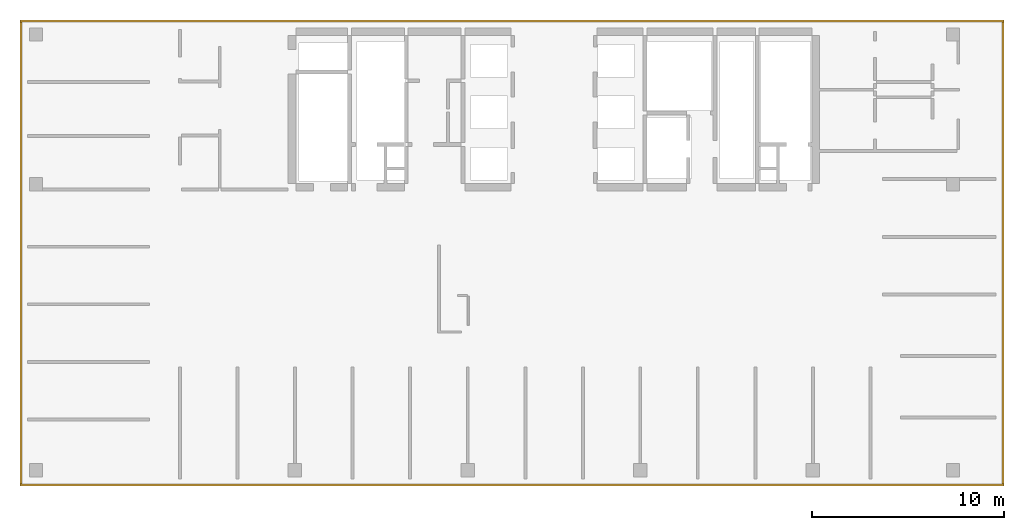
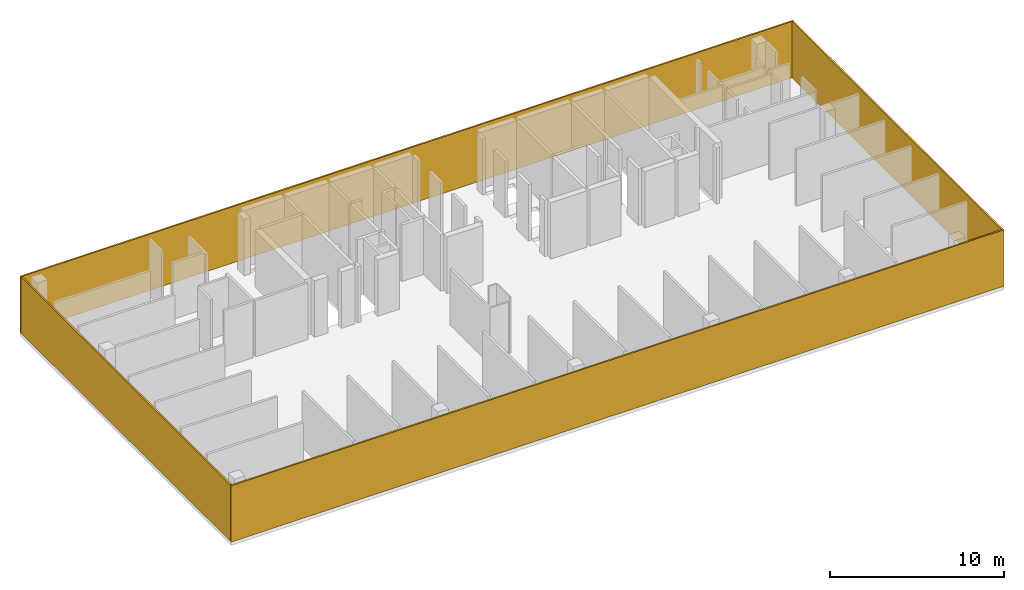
# One storey, part 4 of 4: 4 curtain walls.
"""IFC4 building model written with IfcOpenShell, lengths in millimetres."""

import ifcopenshell
import ifcopenshell.guid

model = None  # the IFC model being written
_history = None  # IfcOwnerHistory: only IFC2X3 demands one
_inside = {}  # id of a spatial element -> (the spatial element, [elements in it])
_under = {}  # id of a project, library or spatial element -> (it, [spatial elements below it])
_declared = {}  # id of a project -> (the project, [libraries it declares])
_typed = {}  # id of a type object -> (the type object, [elements of that type])
_made_of = {}  # id of a material, layer set ... -> (it, [elements and type objects made of it])


def new_model(schema):
    """Start an empty IFC model of exactly this schema.

    Asked for "IFC4X3", IfcOpenShell would pick the latest addendum, in which some entities
    have other attributes; the version numbers below select the first issue.
    IFC2X3 requires an IfcOwnerHistory on every rooted entity: one is made here for all.
    """
    global model, _history
    if schema == "IFC4X3":
        model = ifcopenshell.file(schema_version=(4, 3, 0, 0))
    else:
        model = ifcopenshell.file(schema=schema)
    _inside.clear()
    _under.clear()
    _declared.clear()
    _typed.clear()
    _made_of.clear()
    _history = None
    if model.schema == "IFC2X3":
        org = make("IfcOrganization", Name="unknown")
        user = make(
            "IfcPersonAndOrganization",
            ThePerson=make("IfcPerson", FamilyName="unknown"),
            TheOrganization=org,
        )
        app = make(
            "IfcApplication",
            ApplicationDeveloper=org,
            Version="unknown",
            ApplicationFullName="unknown",
            ApplicationIdentifier="unknown",
        )
        _history = make(
            "IfcOwnerHistory",
            OwningUser=user,
            OwningApplication=app,
            ChangeAction="ADDED",
            CreationDate=0,
        )
    return model


def make(cls, **values):
    """One entity of the class cls with the attributes given. An attribute that is None is left unset."""
    return model.create_entity(
        cls, **{name: value for name, value in values.items() if value is not None}
    )


def rooted(cls, **values):
    """An entity with a GlobalId (a new one), such as an element, a storey or a relation."""
    return make(cls, GlobalId=ifcopenshell.guid.new(), OwnerHistory=_history, **values)


def si_unit(unit_type, name, prefix=None):
    """IfcSIUnit, for example si_unit("LENGTHUNIT", "METRE", prefix="MILLI")."""
    return make("IfcSIUnit", UnitType=unit_type, Prefix=prefix, Name=name)


def assignment(units):
    """IfcUnitAssignment: the units of a project."""
    return None if units is None else make("IfcUnitAssignment", Units=units)


def point(xyz):
    """IfcCartesianPoint."""
    return None if xyz is None else make("IfcCartesianPoint", Coordinates=xyz)


def direction(xyz):
    """IfcDirection."""
    return None if xyz is None else make("IfcDirection", DirectionRatios=xyz)


def frame(location, z_axis=None, x_axis=None):
    """IfcAxis2Placement3D, a coordinate frame: its origin and axes. An axis left out is left unset."""
    return make(
        "IfcAxis2Placement3D",
        Location=point(location),
        Axis=direction(z_axis),
        RefDirection=direction(x_axis),
    )


def origin():
    """The frame at (0, 0, 0) with its axes left unset."""
    return frame((0.0, 0.0, 0.0))


def place(relative_to, where):
    """IfcLocalPlacement: puts the frame where relative to a parent placement (None: the world)."""
    return make(
        "IfcLocalPlacement", PlacementRelTo=relative_to, RelativePlacement=where
    )


def context(
    kind, dimensions, precision=None, world=None, true_north=None, identifier=None
):
    """IfcGeometricRepresentationContext, for example the 3D "Model" context."""
    return make(
        "IfcGeometricRepresentationContext",
        ContextIdentifier=identifier,
        ContextType=kind,
        CoordinateSpaceDimension=dimensions,
        Precision=precision,
        WorldCoordinateSystem=world,
        TrueNorth=true_north,
    )


def project(units=None, contexts=None):
    """IfcProject with its units and contexts."""
    return rooted(
        "IfcProject",
        Name="project",
        RepresentationContexts=contexts,
        UnitsInContext=assignment(units),
    )


def spatial(cls, under=None, at=None, **own):
    """A site, building, storey or space (cls), placed at a placement, below another one or the project."""
    s = rooted(cls, ObjectPlacement=at, **own)
    if under is not None:
        _under.setdefault(under.id(), (under, []))[1].append(s)
    return s


def point_list(points):
    """IfcCartesianPointList2D or 3D."""
    cls = (
        "IfcCartesianPointList2D" if len(points[0]) == 2 else "IfcCartesianPointList3D"
    )
    return make(cls, CoordList=points)


def triangles(points, corners, closed=None, point_numbers=None):
    """IfcTriangulatedFaceSet: each triangle names its three corners, points numbered from 1."""
    return make(
        "IfcTriangulatedFaceSet",
        Coordinates=point_list(points),
        Closed=closed,
        CoordIndex=corners,
        PnIndex=point_numbers,
    )


def shape(context_of_items, identifier, shape_type, items):
    """IfcShapeRepresentation: the items that make up one representation, for example the "Body"."""
    return make(
        "IfcShapeRepresentation",
        ContextOfItems=context_of_items,
        RepresentationIdentifier=identifier,
        RepresentationType=shape_type,
        Items=items,
    )


def made_of(thing, what):
    """Note that an element or type object is made of a material, layer set ...; save() writes the relation."""
    if what is not None:
        _made_of.setdefault(what.id(), (what, []))[1].append(thing)
    return thing


def element(
    cls,
    number,
    at=None,
    inside=None,
    cuts=None,
    type_object=None,
    material=None,
    context=None,
    identifier="Body",
    shape_type=None,
    held_by="IfcProductDefinitionShape",
    body=None,
    shapes=None,
    **own,
):
    """One element of the class cls, such as IfcWall. Its Tag is "e" and its number.

    at: its placement. inside: the storey or other place that contains it. cuts: it is an
    opening in that element (IfcRelVoidsElement). A single representation is given by context,
    identifier, shape_type and body (its items); several are given by shapes. held_by: the class
    of the entity that holds the representations. save() writes the other relations.
    """
    e = rooted(cls, Tag="e%d" % number, ObjectPlacement=at, **own)
    if body is not None:
        shapes = [shape(context, identifier, shape_type, body)]
    if shapes is not None:
        e.Representation = make(held_by, Representations=shapes)
    if inside is not None:
        _inside.setdefault(inside.id(), (inside, []))[1].append(e)
    if cuts is not None:
        rooted(
            "IfcRelVoidsElement", RelatingBuildingElement=cuts, RelatedOpeningElement=e
        )
    if type_object is not None:
        _typed.setdefault(type_object.id(), (type_object, []))[1].append(e)
    return made_of(e, material)


def aggregate(whole, parts):
    """IfcRelAggregates: a whole, such as a stair, and the parts it consists of."""
    return rooted("IfcRelAggregates", RelatingObject=whole, RelatedObjects=parts)


def save(model, path):
    """Write the relations noted so far, then the file.

    IfcRelAggregates (storeys below a building ...), IfcRelContainedInSpatialStructure (elements
    in a storey), IfcRelDefinesByType, IfcRelAssociatesMaterial and IfcRelDeclares: one each for
    every whole, place, type object, material and project.
    """
    for whole, parts in _under.values():
        aggregate(whole, parts)
    for where, things in _inside.values():
        rooted(
            "IfcRelContainedInSpatialStructure",
            RelatedElements=things,
            RelatingStructure=where,
        )
    for kind, things in _typed.values():
        rooted("IfcRelDefinesByType", RelatedObjects=things, RelatingType=kind)
    for what, things in _made_of.values():
        rooted("IfcRelAssociatesMaterial", RelatedObjects=things, RelatingMaterial=what)
    for by, libraries in _declared.values():
        rooted("IfcRelDeclares", RelatingContext=by, RelatedDefinitions=libraries)
    model.write(path)


model = new_model("IFC4")

# Units and contexts
model_context = context("Model", 3, precision=0.001, world=origin())
ifc_project = project(units=[si_unit("LENGTHUNIT", "METRE", prefix="MILLI"), si_unit("AREAUNIT", "SQUARE_METRE"), si_unit("VOLUMEUNIT", "CUBIC_METRE")], contexts=[model_context])

# Site, building, storey
site_placement = place(None, origin())
site = spatial("IfcSite", under=ifc_project, at=site_placement, Name="Site", CompositionType="ELEMENT")
building_placement = place(site_placement, origin())
building = spatial("IfcBuilding", under=site, at=building_placement, Name="INNOCEAN", CompositionType="ELEMENT")
storey_placement = place(building_placement, frame((0.0, 0.0, 72200.0)))
storey = spatial("IfcBuildingStorey", under=building, at=storey_placement, Name="F17", CompositionType="ELEMENT", Elevation=72200.0)

# Curtain walls
curtain_wall_1_placement = place(storey_placement, origin())
element("IfcCurtainWall", 1, at=curtain_wall_1_placement, inside=storey, Name="F17_Facade_F17_001", context=model_context, shape_type="Tessellation", body=[
    triangles([(50420.3187250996, 25825.974025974, 0.0), (-846.215139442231, 25825.974025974, 0.0), (-846.215139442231, 25825.974025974, 3950.0), (50420.3187250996, 25825.974025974, 3950.0), (50420.3187250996, 25720.1298701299, 0.0), (50420.3187250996, 25720.1298701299, 3950.0), (-846.215139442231, 25720.1298701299, 0.0), (-846.215139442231, 25720.1298701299, 3950.0)], [[1, 2, 3], [1, 3, 4], [5, 1, 4], [5, 4, 6], [7, 5, 6], [7, 6, 8], [2, 7, 8], [2, 8, 3], [2, 1, 5], [2, 5, 7], [4, 3, 6], [6, 3, 8]], closed=True),
])
curtain_wall_2_placement = place(storey_placement, origin())
element("IfcCurtainWall", 2, at=curtain_wall_2_placement, inside=storey, Name="F17_Facade_F17_002", context=model_context, shape_type="Tessellation", body=[
    triangles([(50420.3187250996, 1658.22510822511, 0.0), (-846.215139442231, 1658.22510822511, 0.0), (-846.215139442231, 1658.22510822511, 3950.0), (50420.3187250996, 1658.22510822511, 3950.0), (50420.3187250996, 1552.38095238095, 0.0), (50420.3187250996, 1552.38095238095, 3950.0), (-846.215139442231, 1552.38095238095, 0.0), (-846.215139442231, 1552.38095238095, 3950.0)], [[1, 2, 3], [1, 3, 4], [5, 1, 4], [5, 4, 6], [7, 5, 6], [7, 6, 8], [2, 7, 8], [2, 8, 3], [2, 1, 5], [2, 5, 7], [4, 3, 6], [6, 3, 8]], closed=True),
])
curtain_wall_3_placement = place(storey_placement, origin())
element("IfcCurtainWall", 3, at=curtain_wall_3_placement, inside=storey, Name="F17_Facade_F17_003", context=model_context, shape_type="Tessellation", body=[
    triangles([(-740.438247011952, 25720.1298701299, 0.0), (-846.215139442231, 25720.1298701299, 0.0), (-846.215139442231, 25720.1298701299, 3950.0), (-740.438247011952, 25720.1298701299, 3950.0), (-740.438247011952, 1658.22510822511, 0.0), (-740.438247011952, 1658.22510822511, 3950.0), (-846.215139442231, 1658.22510822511, 0.0), (-846.215139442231, 1658.22510822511, 3950.0)], [[1, 2, 3], [1, 3, 4], [5, 1, 4], [5, 4, 6], [7, 5, 6], [7, 6, 8], [2, 7, 8], [2, 8, 3], [2, 1, 5], [2, 5, 7], [4, 3, 6], [6, 3, 8]], closed=True),
])
curtain_wall_4_placement = place(storey_placement, origin())
element("IfcCurtainWall", 4, at=curtain_wall_4_placement, inside=storey, Name="F17_Facade_F17_004", context=model_context, shape_type="Tessellation", body=[
    triangles([(50420.3187250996, 25720.1298701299, 0.0), (50314.5418326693, 25720.1298701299, 0.0), (50314.5418326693, 25720.1298701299, 3950.0), (50420.3187250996, 25720.1298701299, 3950.0), (50420.3187250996, 1658.22510822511, 0.0), (50420.3187250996, 1658.22510822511, 3950.0), (50314.5418326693, 1658.22510822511, 0.0), (50314.5418326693, 1658.22510822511, 3950.0)], [[1, 2, 3], [1, 3, 4], [5, 1, 4], [5, 4, 6], [7, 5, 6], [7, 6, 8], [2, 7, 8], [2, 8, 3], [2, 1, 5], [2, 5, 7], [4, 3, 6], [6, 3, 8]], closed=True),
])

save(model, "model.ifc")
